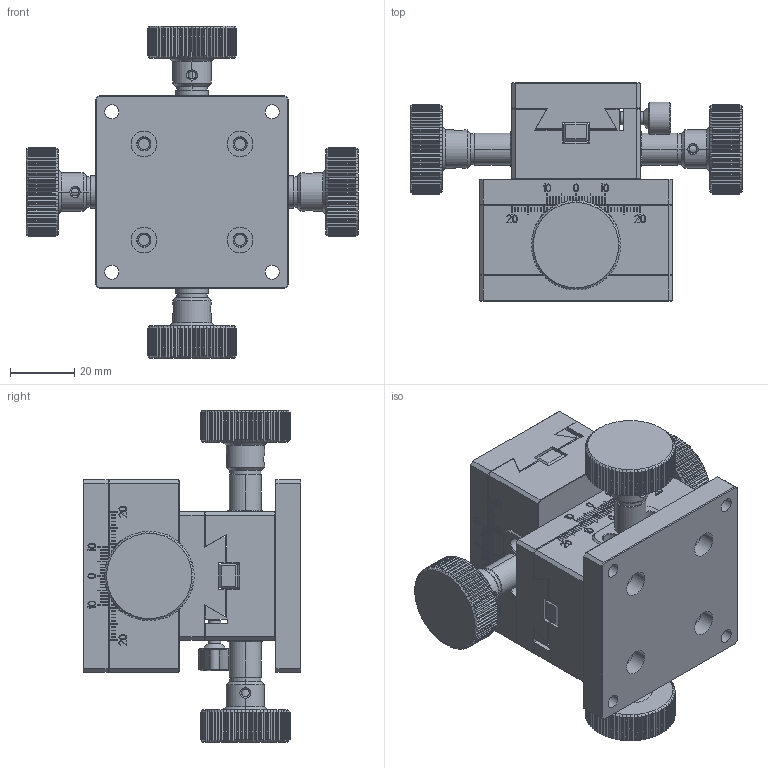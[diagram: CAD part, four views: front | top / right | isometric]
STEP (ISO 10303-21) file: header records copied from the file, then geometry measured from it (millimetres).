
FILE_DESCRIPTION((''),'2;1');
FILE_NAME('ASSY-40-60-ST30W-XY_ASM','2022-02-24T15:26:59',('windows10'),(''),'CREO PARAMETRIC BY PTC INC, 2018260','CREO PARAMETRIC BY PTC INC, 2018260','');
FILE_SCHEMA(('CONFIG_CONTROL_DESIGN'));
Length unit declared in the file: millimetre
Products named in the file (17): BASE-60; BOTTOM-40-60-W-F; PINION-4-41-W; HOLDER-PINION-16D3; WHASHER-9D6-4D1-1D2; HANDLE-28-19; ASSY-HANDLE-28-51D8-W_ASM; TOP-40-60-M; RACK-8-6-60; 3-8; ASSY-TOP-40-60-M_ASM; STOPPER-A-NEW; LEVER-NEW; ASSY-STOPPER-NEW_ASM; ASSY-40-60-ST30W_ASM; ASSY-40-60-ST30WB_ASM; ASSY-40-60-ST30W-XY_ASM
Assembly tree (21 placements, depth 5):
  ASSY-40-60-ST30W-XY_ASM
    ASSY-40-60-ST30WB_ASM
      BASE-60
      ASSY-40-60-ST30W_ASM
        BOTTOM-40-60-W-F
        ASSY-HANDLE-28-51D8-W_ASM
          PINION-4-41-W
          HOLDER-PINION-16D3
          WHASHER-9D6-4D1-1D2
          HANDLE-28-19
        HOLDER-PINION-16D3
        WHASHER-9D6-4D1-1D2
        HANDLE-28-19
        ASSY-TOP-40-60-M_ASM
          TOP-40-60-M
          RACK-8-6-60
          3-8  x2
        ASSY-STOPPER-NEW_ASM
          STOPPER-A-NEW
          LEVER-NEW
    ASSY-40-60-ST30W_ASM
      BOTTOM-40-60-W-F
      ASSY-HANDLE-28-51D8-W_ASM
        PINION-4-41-W
        HOLDER-PINION-16D3
        WHASHER-9D6-4D1-1D2
        HANDLE-28-19
      HOLDER-PINION-16D3
      WHASHER-9D6-4D1-1D2
      HANDLE-28-19
      ASSY-TOP-40-60-M_ASM
        TOP-40-60-M
        RACK-8-6-60
        3-8  x2
      ASSY-STOPPER-NEW_ASM
        STOPPER-A-NEW
        LEVER-NEW
Bounding box: 103.6 x 68 x 103.6 mm (x, y, z)
Volume: 195222 mm3; surface area: 82164.8 mm2
Topology: 29 solids, 29 shells, 3822 faces, 9938 edges, 6430 vertices
Faces by surface type: plane 2662, cylinder 736, cone 408, bspline 16
Entity records: 49175 total; most frequent: CARTESIAN_POINT 10097, ORIENTED_EDGE 8150, DIRECTION 7713, EDGE_CURVE 4075, VECTOR 3053, LINE 3053, VERTEX_POINT 2643, AXIS2_PLACEMENT_3D 2330
